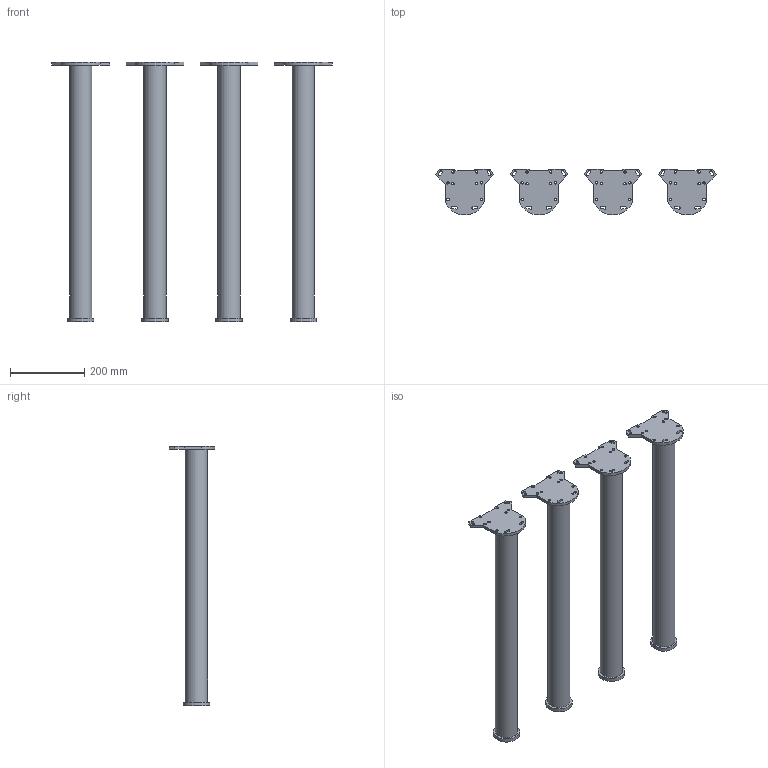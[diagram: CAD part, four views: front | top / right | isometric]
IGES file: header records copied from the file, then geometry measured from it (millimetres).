
Start section: Data from Parasolid IGES Translator 20.0.26, Copyright(c) 2006 Siemens P LM Software. All Rights Reserved.
Global section: file name: 70147.igs; native system: By Siemens PLM Incorporated; preprocessor: XPlus GENERIC/IGES 20.0.26; author: Noname; organization: Noname; date: 20210810.181524; units: millimetre
Bounding box: 755.69 x 124 x 700 mm (x, y, z)
Surface area: 657542.8 mm2 (no closed solid volume)
Topology: 0 solids, 0 shells, 184 faces, 1008 edges, 944 vertices
Faces by surface type: revolution 92, extrusion 92
